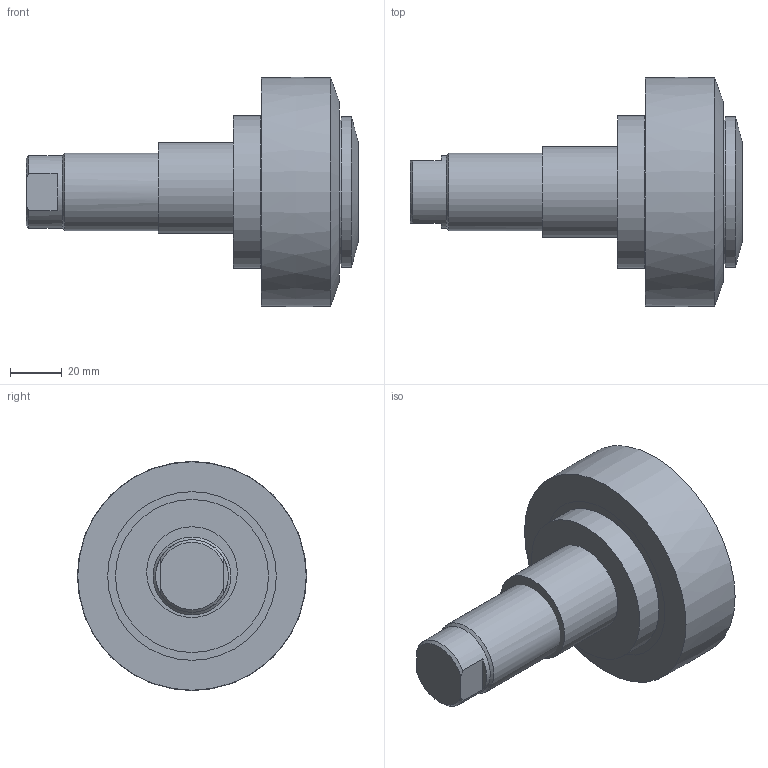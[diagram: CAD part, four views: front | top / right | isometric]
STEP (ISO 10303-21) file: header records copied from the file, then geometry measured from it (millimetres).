
FILE_DESCRIPTION(/* description */ ('-','CAx-IF Rec.Pracs.---Representation and Presentation of Product Manufacturing Information (PMI)---4.0---2014-10-13'),/* implementation_level */ '2;1');
FILE_NAME(/* name */ 'c:\temp\cd42b880-d23f-4852-84a9-1b802a8fb7d8\a237c8a3-5b50-452e-b80d-8f042aa5d193.stp',/* time_stamp */ '2020-05-28T13:32:43+02:00',/* author */ ('-'),/* organization */ ('NTI CADcenter A/S'),/* preprocessor_version */ 'ST-DEVELOPER v18',/* originating_system */ 'Autodesk Inventor 2020',/* authorisation */ '-');
FILE_SCHEMA (('AP242_MANAGED_MODEL_BASED_3D_ENGINEERING_MIM_LF { 1 0 10303 442 1 1 4 }'));
Length unit declared in the file: millimetre
Products named in the file (1): TR 090.1360E_Kontur
Bounding box: 128 x 88.4 x 88.39 mm (x, y, z)
Volume: 476416 mm3; surface area: 83683.1 mm2
Topology: 8 solids, 8 shells, 53 faces, 110 edges, 80 vertices
Faces by surface type: plane 29, cylinder 16, cone 7, bspline 1
Full cylindrical faces by diameter (mm): 28 x1, 30 x1, 32.9 x1, 35 x1, 50 x1, 55.3 x1, 55.5 x1, 55.8 x1, 58 x1, 59 x1, 61.8 x1, 62.5 x1, 65 x2
Entity records: 1665 total; most frequent: CARTESIAN_POINT 342, DIRECTION 279, ORIENTED_EDGE 220, AXIS2_PLACEMENT_3D 122, EDGE_CURVE 110, VERTEX_POINT 80, CIRCLE 69, STYLED_ITEM 61
